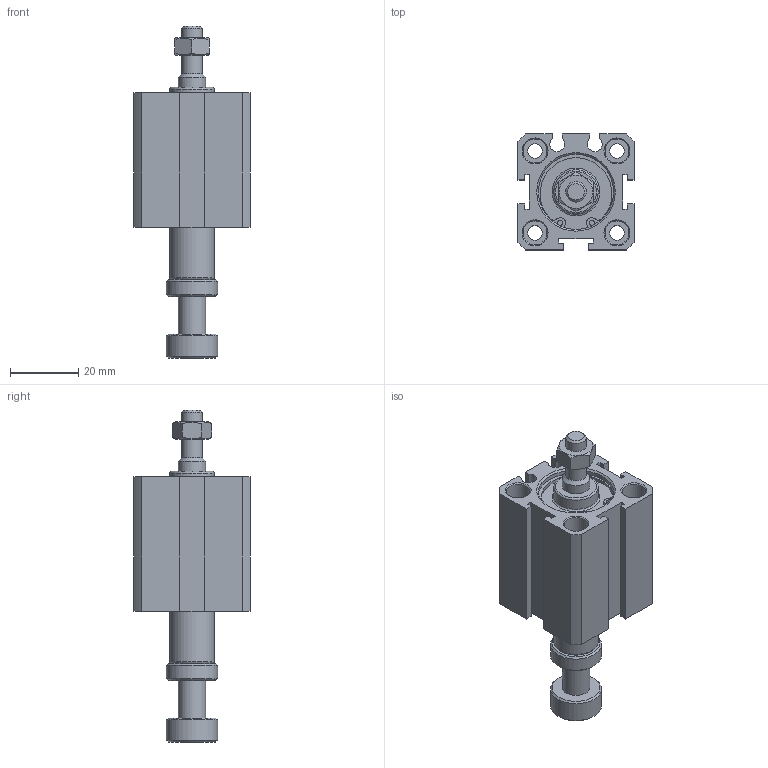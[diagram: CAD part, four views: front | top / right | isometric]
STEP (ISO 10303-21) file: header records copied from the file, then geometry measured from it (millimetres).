
FILE_DESCRIPTION((''),'2;1');
FILE_NAME('I:\3D電子目錄\氣缸\JDAR\JDAR-BS\JDAR20-BS\JDAR20x10-BS.stp','2007-05-05T10:41:55',('662F206'),(''),'Autodesk Inventor 11','Autodesk Inventor 11','');
FILE_SCHEMA(('AUTOMOTIVE_DESIGN { 1 0 10303 214 1 1 1 1 }'));
Length unit declared in the file: millimetre
Products named in the file (3): JDAR20-BS; R 形環 23
Assembly tree (3 placements, depth 2):
  JDAR20-BS
    JDAR20-BS
    R 形環 23  x2
Bounding box: 34 x 34 x 97.3 mm (x, y, z)
Volume: 41561.3 mm3; surface area: 15968.7 mm2
Topology: 3 solids, 3 shells, 152 faces, 341 edges, 221 vertices
Faces by surface type: plane 74, cylinder 50, cone 20, bspline 6, torus 2
Full cylindrical faces by diameter (mm): 1.5 x6, 4.3 x4, 6 x2, 7 x8, 8 x2, 13 x2, 15 x2, 22 x4, 23.2 x2
Entity records: 3749 total; most frequent: CARTESIAN_POINT 742, DIRECTION 628, ORIENTED_EDGE 498, AXIS2_PLACEMENT_3D 251, EDGE_CURVE 249, EDGE_LOOP 234, VERTEX_POINT 195, FACE_OUTER_BOUND 140
